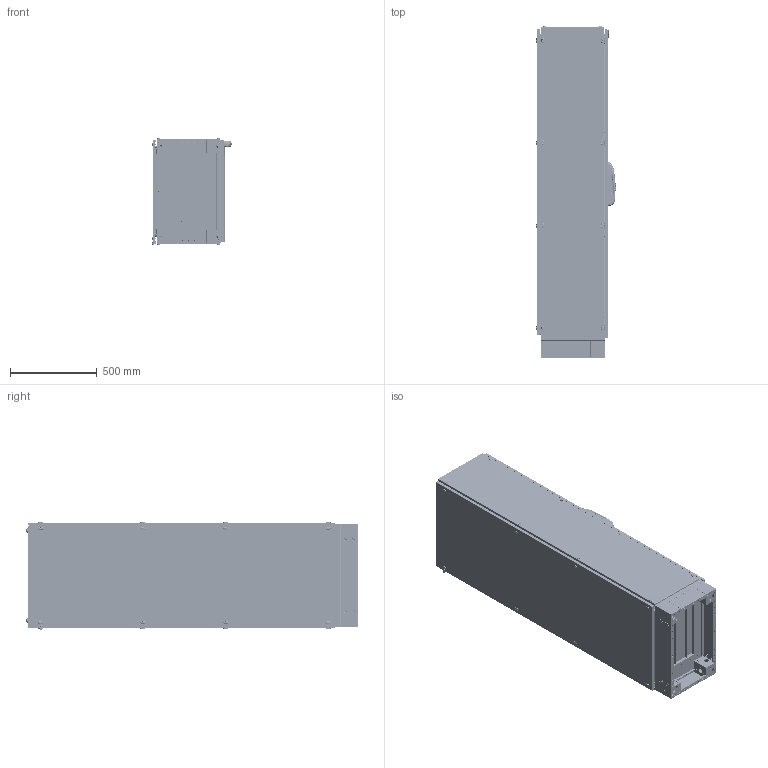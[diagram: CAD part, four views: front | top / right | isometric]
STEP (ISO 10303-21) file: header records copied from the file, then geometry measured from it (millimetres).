
FILE_DESCRIPTION (( 'STEP AP203' ), '1' );
FILE_NAME ('706.184 600x1800x400.STEP', '2020-04-04T14:56:43', ( '' ), ( '' ), 'SwSTEP 2.0', 'SolidWorks 2019', '' );
FILE_SCHEMA (( 'CONFIG_CONTROL_DESIGN' ));
Length unit declared in the file: millimetre
Products named in the file (124): TEOS TEK KAPAK REVÝZE_600x1800; Teos-Neo MP Durdurucu; percinli taban-vidalý kapak-kose pls yok_701.640-60X40 ALT; 252016-2; PB 14.0004 M6 HAVÞA PLASTÝK CÝVATA; MP 18.7631 Tekpan ASSEMBLY 27092017_mekanizmasiz; kose rondela kabartmaSIZ 12; M6 HAVÞA PLASTÝK CÝVATA; M6 KAFES SOMU2015; on Kapi 10-2017 2 mm dkp_PP 17.1081 600x1800; 03-KOSE PUNT; Teos-Neo MP Sol Braketi; yan arka kapak baglantý saci; pan head cross recess screw_iso_ISO 7045 - M5 x 10 - Z --- 10C; TEOS Kilit Üst Çubuk Montaj_1800H; 706.184 600x1800x400; M8 KAFES SOMUN_m8; TEOS SIDE PANEL_706.184 1800X400; MP 18.7631 Gövde-Plastik; socket button head cap screw_am_B18.3.4M - 8 x 1.25 x 16 SBHCS --N; TEOS Kilit Üst Çubuk_1800--MP 16.0130; MP 14.0007 M6 PLASTÝK HAVSA; TEOS REAR PANEL_703.618 600X1800; 03-TABAN SACI SURGU_PP 12.0030 - 600; MP 11.0195 montaj plakasý m8takoz1VER3 NEO26-12; BAZA KÖÞES_SAG; mentese orta 09-201; BAZA KÖÞES_SOL; 22032010-PLASTIK KOSE50x40; mentese bakýr kapak 09-201; TEOS Kilit Alt Çubuk Montaj_1800H; MP 18.7631 Kayar Parça; socket head cap screw_am_B18.3.1M - 8 x 1.25 x 35 Hex SHCS -- 35NHX; MP 18.7631 204 handle REV04 tekpan logo; kapali dikey profilkenetli_ita oluklu10-aaaaaaaaaaaa-1_400; 03-KOSE PUNT_PP 12.0027; BOYUNA DELIKLI PROFIL_1800; pan cross head_am1_B18.6.7M - M5 x 0.8 x 10 Type I Cross Recessed PHMS --10N; TEOS Kilit Çubuk Pimi; on citaVER3 teos26-12_600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
Assembly tree (387 placements, depth 7):
  706.184 600x1800x400
    TEOS iskelet_600x1800x400
      kapali dikey profilkenetli_ita oluklu10-aaaaaaaaaaaa-1_1800  x4
      kapali dikey profilkenetli_ita oluklu10-aaaaaaaaaaaa-1_400  x4
      kapali dikey profilkenetli_ita oluklu10-aaaaaaaaaaaa-1_600  x4
      L KOSE DESTEKorj1  x8
      kose rondela kabartmaSIZ 10  x15
      kose rondela kabartmaSIZ 12
      MP 11.0140 TEOS ALUMINYUM KOSE APPROVED 16.08.2010  x8
      M5 DÝKEY PROFÝL RONDELA  x16
      percinli taban-vidalý kapak-kose pls yok_701.640-60X40 ALT
        03-taban genislik percinli 04 - 2012 100-120_PP 12.0019 - 600  x2
        03taban derinlik percinli_PP 12.0023 - 400  x2
        03-KOSE PUNT_PP 12.0027
        03-KOSE PUNT
        Mirror03-KOSE PUNT  x2
        TEOS V2 BAZA S嵞TEM廆600X400
          BAZA KÖÞES_SAG
            V2 BAZA KOSESI2015_100
            BAZA SISTEMIV2-6 baza kapaðý201550x40_TEKPAN LOGOLU
            M6 KAFES SOMU2015
              kafes somun kafes
              somu
            M6 KAFES SOMU2015
              kafes somun kafes
              somu
          V2 -2011 DT BAZA KAPAGI ON_PP 12.0045 - 600  x2
          BAZA KÖÞES_SOL
            V2 BAZA KOSESI2015_100
            BAZA SISTEMIV2-6 baza kapaðý201550x40
            M6 KAFES SOMU2015
              kafes somun kafes
              somu
            M6 KAFES SOMU2015
              kafes somun kafes
              somu
          BAZA KÖÞES_SAG
            V2 BAZA KOSESI2015_100
            BAZA SISTEMIV2-6 baza kapaðý201550x40_TEKPAN LOGOLU
            M6 KAFES SOMU2015
              kafes somun kafes
              somu
            M6 KAFES SOMU2015
              kafes somun kafes
              somu
          BAZA KÖÞES_SOL
            V2 BAZA KOSESI2015_100
            BAZA SISTEMIV2-6 baza kapaðý201550x40
            M6 KAFES SOMU2015
              kafes somun kafes
              somu
            M6 KAFES SOMU2015
              kafes somun kafes
              somu
          V3 -2011 DT BAZA KAPAGI yan_PP 12.0049 - 400  x2
          flat head screw_am_B18.6.7M - M6 x 1.0 x 20 Type I Cross Recessed FHMS --20N  x8
        03-TABAN SACI SURGU_PP 12.0030 - 600
        03-TABAN SACI U1 04-2012_PP 12.0040 - 600-75  x2
        mp aLT DAYAMA_PP 12.0091 - 400  x2
      yan arka kapak baglantý saci  x4
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Bounding box: 458.08 x 1917.1 x 623.59 mm (x, y, z)
Volume: 16679048.1 mm3; surface area: 17285993.3 mm2
Topology: 333 solids, 373 shells, 49700 faces, 134314 edges, 85057 vertices
Faces by surface type: plane 31680, cylinder 13087, bspline 2211, torus 1147, cone 966, sphere 609
Entity records: 689531 total; most frequent: CARTESIAN_POINT 292220, ORIENTED_EDGE 80826, DIRECTION 74254, EDGE_CURVE 40413, LINE 26996, VECTOR 26996, VERTEX_POINT 25842, AXIS2_PLACEMENT_3D 23629
